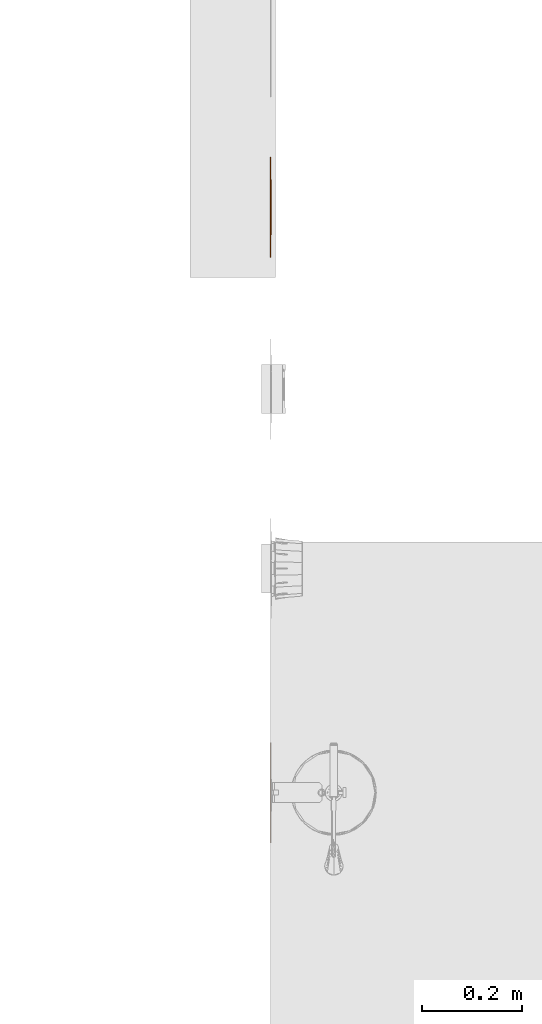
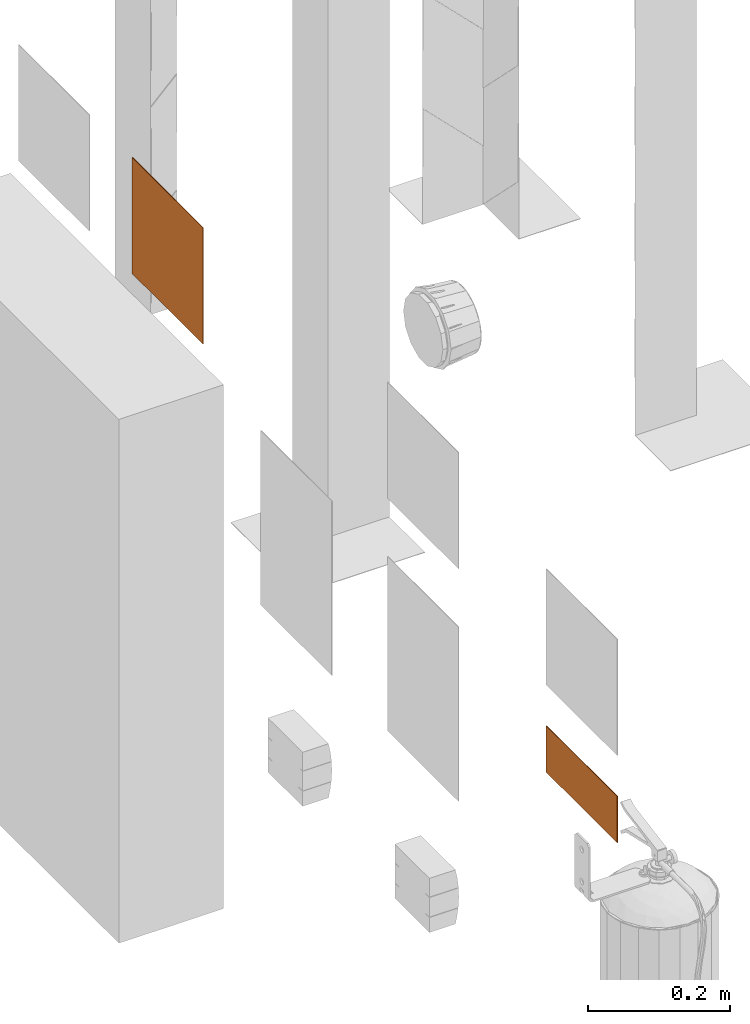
# One storey, part 98 of 119: 2 proxies.
"""IFC2X3 building model written with IfcOpenShell, lengths in metres."""

from ifc_helpers import new_model, entity, si_unit, converted_unit, derived_unit, direction, frame, frame_2d, origin, origin_2d_with_axis, place, context, subcontext, project, spatial, polyline, circle_curve, parameter, trimmed, segment, composite_curve, rectangle, outline, extrude, source, transform, mapped, material, material_list, type_object, type_shapes, element, save


model = new_model("IFC2X3")

# Units and contexts
model_context = context("Model", 3, precision=1e-05, world=origin(), true_north=direction((6.12303176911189e-17, 1.0)))
body_context = subcontext(model_context, "Body", "Model", "MODEL_VIEW")
ifc_project = project(units=[si_unit("LENGTHUNIT", "METRE"), si_unit("AREAUNIT", "SQUARE_METRE"), si_unit("VOLUMEUNIT", "CUBIC_METRE"), converted_unit("PLANEANGLEUNIT", "DEGREE", entity("IfcRatioMeasure", 0.0174532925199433), si_unit("PLANEANGLEUNIT", "RADIAN"), dimensions=[0, 0, 0, 0, 0, 0, 0]), si_unit("MASSUNIT", "GRAM", prefix="KILO"), derived_unit("MASSDENSITYUNIT", [(si_unit("MASSUNIT", "GRAM", prefix="KILO"), 1), (si_unit("LENGTHUNIT", "METRE"), -3)]), derived_unit("MOMENTOFINERTIAUNIT", [(si_unit("LENGTHUNIT", "METRE"), 4)]), si_unit("TIMEUNIT", "SECOND"), si_unit("FREQUENCYUNIT", "HERTZ"), si_unit("THERMODYNAMICTEMPERATUREUNIT", "DEGREE_CELSIUS"), derived_unit("THERMALTRANSMITTANCEUNIT", [(si_unit("MASSUNIT", "GRAM", prefix="KILO"), 1), (si_unit("THERMODYNAMICTEMPERATUREUNIT", "KELVIN"), -1), (si_unit("TIMEUNIT", "SECOND"), -3)]), derived_unit("VOLUMETRICFLOWRATEUNIT", [(si_unit("LENGTHUNIT", "METRE"), 3), (si_unit("TIMEUNIT", "SECOND"), -1)]), si_unit("ELECTRICCURRENTUNIT", "AMPERE"), si_unit("ELECTRICVOLTAGEUNIT", "VOLT"), si_unit("POWERUNIT", "WATT"), si_unit("FORCEUNIT", "NEWTON", prefix="KILO"), si_unit("ILLUMINANCEUNIT", "LUX"), si_unit("LUMINOUSFLUXUNIT", "LUMEN"), si_unit("LUMINOUSINTENSITYUNIT", "CANDELA"), derived_unit("USERDEFINED", [(si_unit("MASSUNIT", "GRAM", prefix="KILO"), -1), (si_unit("LENGTHUNIT", "METRE"), -2), (si_unit("TIMEUNIT", "SECOND"), 3), (si_unit("LUMINOUSFLUXUNIT", "LUMEN"), 1)]), derived_unit("LINEARVELOCITYUNIT", [(si_unit("LENGTHUNIT", "METRE"), 1), (si_unit("TIMEUNIT", "SECOND"), -1)]), si_unit("PRESSUREUNIT", "PASCAL"), derived_unit("USERDEFINED", [(si_unit("LENGTHUNIT", "METRE"), -2), (si_unit("MASSUNIT", "GRAM", prefix="KILO"), 1), (si_unit("TIMEUNIT", "SECOND"), -2)]), derived_unit("LINEARFORCEUNIT", [(si_unit("MASSUNIT", "GRAM", prefix="KILO"), 1), (si_unit("LENGTHUNIT", "METRE"), 1), (si_unit("TIMEUNIT", "SECOND"), -2), (si_unit("LENGTHUNIT", "METRE"), -1)]), derived_unit("PLANARFORCEUNIT", [(si_unit("MASSUNIT", "GRAM", prefix="KILO"), 1), (si_unit("LENGTHUNIT", "METRE"), 1), (si_unit("TIMEUNIT", "SECOND"), -2), (si_unit("LENGTHUNIT", "METRE"), -2)])], contexts=[model_context])

# Site, building, storey
site_placement = place(None, origin())
site = spatial("IfcSite", under=ifc_project, at=site_placement, Name="Default", CompositionType="ELEMENT")
building_placement = place(site_placement, origin())
building = spatial("IfcBuilding", under=site, at=building_placement, CompositionType="ELEMENT")
storey_placement = place(building_placement, origin())
storey = spatial("IfcBuildingStorey", under=building, at=storey_placement, Name="PAV. 01 - TÉRREO", CompositionType="ELEMENT", Elevation=0.0)

# Proxies
ifc_material_1 = material(Name="Plastico Preto")
ifc_material_2 = material(Name="Plastico azul claro")
ifc_material_3 = material(Name="Plastico vermelho")
ifc_material_4 = material(Name="Plastico branco")
ifc_material_5 = material(Name="Plastico Verde")
ifc_material_list_1 = material_list([ifc_material_1, ifc_material_2, ifc_material_3, ifc_material_4, ifc_material_5])
building_element_proxy_type_1 = type_object("IfcBuildingElementProxyType", Name="Sinalização de equipamentos - E05 - Extintor de incêndio - TIPO 2:Placa de extintor - E6-A", PredefinedType="NOTDEFINED", material=ifc_material_1)
shared_shape_1 = source(origin(), body_context, "Body", "SweptSolid", [
    extrude(rectangle(XDim=0.001, YDim=0.0243464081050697, at=origin_2d_with_axis()), frame((0.0791678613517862, -0.0005, 0.0143679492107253), z_axis=(0.0, 0.0, 1.0), x_axis=(0.0, 1.0, 0.0)), (0.0, 0.0, 1.0), 0.0243153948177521),
    extrude(rectangle(XDim=0.001, YDim=0.0243464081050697, at=origin_2d_with_axis()), frame((0.0514092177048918, -0.0005, 0.0143679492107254), z_axis=(0.0, 0.0, 1.0), x_axis=(0.0, 1.0, 0.0)), (0.0, 0.0, 1.0), 0.0243153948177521),
    extrude(rectangle(XDim=0.001, YDim=0.0243464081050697, at=origin_2d_with_axis()), frame((0.023605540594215, -0.0005, 0.0143679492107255), z_axis=(0.0, 0.0, 1.0), x_axis=(0.0, 1.0, 0.0)), (0.0, 0.0, 1.0), 0.0243153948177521),
    extrude(rectangle(XDim=0.001, YDim=0.0243464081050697, at=origin_2d_with_axis()), frame((-0.00415310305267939, -0.0005, 0.0143679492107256), z_axis=(0.0, 0.0, 1.0), x_axis=(0.0, 1.0, 0.0)), (0.0, 0.0, 1.0), 0.0243153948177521),
    extrude(outline(polyline([(-0.0399999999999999, -0.1), (0.0399999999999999, -0.1), (0.0399999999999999, 0.1), (-0.0399999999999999, 0.1), (-0.0399999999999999, -0.1)]), holes=[polyline([(-0.0319999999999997, 0.091), (-0.0150022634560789, 0.091), (-0.0150022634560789, -0.091), (-0.0319999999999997, -0.091), (-0.0319999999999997, 0.091)]), polyline([(-0.010791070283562, 0.091), (0.0319999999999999, 0.091), (0.0319999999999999, 0.0473282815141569), (-0.010791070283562, 0.0473282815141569), (-0.010791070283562, 0.091)]), polyline([(0.00131665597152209, 0.0441091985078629), (0.0256320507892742, 0.0441091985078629), (0.0256320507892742, 0.0197627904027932), (0.00131665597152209, 0.0197627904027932), (0.00131665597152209, 0.0441091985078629)]), polyline([(0.00131665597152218, 0.0163263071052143), (0.0256320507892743, 0.0163263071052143), (0.0256320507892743, -0.00802010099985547), (0.00131665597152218, -0.00802010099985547), (0.00131665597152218, 0.0163263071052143)]), polyline([(0.00131665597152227, -0.0114323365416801), (0.0256320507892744, -0.0114323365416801), (0.0256320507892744, -0.0357787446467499), (0.00131665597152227, -0.0357787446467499), (0.00131665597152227, -0.0114323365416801)]), polyline([(0.00131665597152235, -0.0635824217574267), (0.00131665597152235, -0.039236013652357), (0.0256320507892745, -0.039236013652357), (0.0256320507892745, -0.0635824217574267), (0.00131665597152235, -0.0635824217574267)]), polyline([(0.00131665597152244, -0.0669946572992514), (0.0256320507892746, -0.0669946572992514), (0.0256320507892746, -0.091), (0.00131665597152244, -0.091), (0.00131665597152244, -0.0669946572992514)])]), frame((0.0, -0.001, 0.0399999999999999), z_axis=(0.0, 1.0, 0.0), x_axis=(0.0, 0.0, -1.0)), (0.0, 0.0, 1.0), 0.001),
    extrude(outline(composite_curve([segment(trimmed(circle_curve(frame_2d((-0.00182713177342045, 0.0030692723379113), x_axis=(1.0, 0.0)), 0.00333179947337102), [parameter(180.0)], [parameter(270.0)], True, "PARAMETER"), True, "CONTINUOUS"), segment(polyline([(-0.00182713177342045, -0.000262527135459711), (-0.000430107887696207, -0.000262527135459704)]), True, "CONTINUOUS"), segment(polyline([(-0.000430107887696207, -0.000262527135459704), (-0.000430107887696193, -0.00350797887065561)]), True, "CONTINUOUS"), segment(polyline([(-0.000430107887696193, -0.00350797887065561), (-0.00249820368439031, -0.00350797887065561)]), True, "CONTINUOUS"), segment(polyline([(-0.00249820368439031, -0.00350797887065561), (-0.00742535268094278, 7.18044171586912e-05)]), True, "CONTINUOUS"), segment(polyline([(-0.00742535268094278, 7.18044171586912e-05), (-0.00742535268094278, 0.00166630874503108)]), True, "CONTINUOUS"), segment(polyline([(-0.00742535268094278, 0.00166630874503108), (-0.00871124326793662, 0.00166630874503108)]), True, "CONTINUOUS"), segment(polyline([(-0.00871124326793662, 0.00166630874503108), (-0.00846384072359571, -0.00134355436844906)]), True, "CONTINUOUS"), segment(trimmed(circle_curve(frame_2d((-0.00608099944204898, -0.00114769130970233), x_axis=(1.0, 0.0)), 0.00239087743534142), [parameter(184.698993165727)], [parameter(232.0)], True, "PARAMETER"), True, "CONTINUOUS"), segment(polyline([(-0.00755297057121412, -0.00303172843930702), (-0.0030496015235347, -0.00655014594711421)]), True, "CONTINUOUS"), segment(polyline([(-0.0030496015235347, -0.00655014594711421), (-0.000124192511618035, -0.00655014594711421)]), True, "CONTINUOUS"), segment(polyline([(-0.000124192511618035, -0.00655014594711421), (-0.000124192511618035, -0.00788602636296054)]), True, "CONTINUOUS"), segment(polyline([(-0.000124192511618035, -0.00788602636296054), (0.003207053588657, -0.00788602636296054)]), True, "CONTINUOUS"), segment(polyline([(0.003207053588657, -0.00788602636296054), (0.003207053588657, -0.00698801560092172)]), True, "CONTINUOUS"), segment(polyline([(0.003207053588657, -0.00698801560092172), (0.00540783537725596, -0.00698801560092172)]), True, "CONTINUOUS"), segment(polyline([(0.00540783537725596, -0.00698801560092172), (0.00665542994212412, -0.00574042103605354)]), True, "CONTINUOUS"), segment(polyline([(0.00665542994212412, -0.00574042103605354), (0.00665542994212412, -0.00450724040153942)]), True, "CONTINUOUS"), segment(polyline([(0.00665542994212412, -0.00450724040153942), (0.00491919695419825, -0.00324579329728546)]), True, "CONTINUOUS"), segment(polyline([(0.00491919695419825, -0.00324579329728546), (0.00355615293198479, -0.00324579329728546)]), True, "CONTINUOUS"), segment(polyline([(0.00355615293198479, -0.00324579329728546), (0.00355615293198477, -0.000262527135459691)]), True, "CONTINUOUS"), segment(polyline([(0.00355615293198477, -0.000262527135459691), (0.00500257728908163, -0.000262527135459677)]), True, "CONTINUOUS"), segment(trimmed(circle_curve(frame_2d((0.00500257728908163, 0.00284153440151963), x_axis=(1.0, 0.0)), 0.00310406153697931), [parameter(270.0)], [parameter(1.52666624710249e-13)], True, "PARAMETER"), True, "CONTINUOUS"), segment(polyline([(0.00810663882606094, 0.00284153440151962), (0.0081066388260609, 0.0313568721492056)]), True, "CONTINUOUS"), segment(polyline([(0.0081066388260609, 0.0313568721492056), (-0.00515893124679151, 0.0313568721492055)]), True, "CONTINUOUS"), segment(polyline([(-0.00515893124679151, 0.0313568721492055), (-0.00515893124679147, 0.00306927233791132)]), True, "CONTINUOUS")], self_intersect=False)), frame((-0.0705753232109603, -0.001, 0.0413479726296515), z_axis=(0.0, 1.0, 0.0), x_axis=(1.0, 0.0, 0.0)), (0.0, 0.0, 1.0), 0.001),
    extrude(rectangle(XDim=0.001, YDim=0.0243464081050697, at=origin_2d_with_axis()), frame((-0.0319359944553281, -0.0005, 0.0143679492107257), z_axis=(0.0, 0.0, 1.0), x_axis=(0.0, 1.0, 0.0)), (0.0, 0.0, 1.0), 0.0243153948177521),
    extrude(outline(polyline([(-0.0218358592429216, -0.021395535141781), (0.0218358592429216, -0.021395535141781), (0.0218358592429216, 0.021395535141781), (-0.0218358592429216, 0.021395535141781), (-0.0218358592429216, -0.021395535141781)]), holes=[composite_curve([segment(polyline([(-0.00669545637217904, -0.0194044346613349), (-0.00669545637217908, 0.00911090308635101)]), True, "CONTINUOUS"), segment(trimmed(circle_curve(frame_2d((-0.00359139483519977, 0.00911090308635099), x_axis=(-1.0, 0.0)), 0.00310406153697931), [parameter(270.0)], [parameter(360.0)], True, "PARAMETER"), False, "CONTINUOUS"), segment(polyline([(-0.0035913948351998, 0.0122149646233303), (-0.00214497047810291, 0.0122149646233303)]), True, "CONTINUOUS"), segment(polyline([(-0.00214497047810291, 0.0122149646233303), (-0.00214497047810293, 0.0151982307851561)]), True, "CONTINUOUS"), segment(polyline([(-0.00214497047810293, 0.0151982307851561), (-0.0035080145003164, 0.0151982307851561)]), True, "CONTINUOUS"), segment(polyline([(-0.0035080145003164, 0.0151982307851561), (-0.00524424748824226, 0.01645967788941)]), True, "CONTINUOUS"), segment(polyline([(-0.00524424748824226, 0.01645967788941), (-0.00524424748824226, 0.0176928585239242)]), True, "CONTINUOUS"), segment(polyline([(-0.00524424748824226, 0.0176928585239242), (-0.0039966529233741, 0.0189404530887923)]), True, "CONTINUOUS"), segment(polyline([(-0.0039966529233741, 0.0189404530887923), (-0.00179587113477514, 0.0189404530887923)]), True, "CONTINUOUS"), segment(polyline([(-0.00179587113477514, 0.0189404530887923), (-0.00179587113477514, 0.0198384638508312)]), True, "CONTINUOUS"), segment(polyline([(-0.00179587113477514, 0.0198384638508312), (0.00153537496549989, 0.0198384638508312)]), True, "CONTINUOUS"), segment(polyline([(0.00153537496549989, 0.0198384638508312), (0.00153537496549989, 0.0185025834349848)]), True, "CONTINUOUS"), segment(polyline([(0.00153537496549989, 0.0185025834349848), (0.00446078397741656, 0.0185025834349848)]), True, "CONTINUOUS"), segment(polyline([(0.00446078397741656, 0.0185025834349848), (0.00896415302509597, 0.0149841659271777)]), True, "CONTINUOUS"), segment(trimmed(circle_curve(frame_2d((0.00749218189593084, 0.0131001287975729), x_axis=(-1.0, 0.0)), 0.00239087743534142), [parameter(184.698993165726)], [parameter(231.999999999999)], True, "PARAMETER"), False, "CONTINUOUS"), segment(polyline([(0.00987502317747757, 0.0132959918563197), (0.0101224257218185, 0.0102861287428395)]), True, "CONTINUOUS"), segment(polyline([(0.0101224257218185, 0.0102861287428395), (0.00883653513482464, 0.0102861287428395)]), True, "CONTINUOUS"), segment(polyline([(0.00883653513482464, 0.0102861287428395), (0.00883653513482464, 0.0118806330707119)]), True, "CONTINUOUS"), segment(polyline([(0.00883653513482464, 0.0118806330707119), (0.00390938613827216, 0.0154604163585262)]), True, "CONTINUOUS"), segment(polyline([(0.00390938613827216, 0.0154604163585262), (0.00184129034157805, 0.0154604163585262)]), True, "CONTINUOUS"), segment(polyline([(0.00184129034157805, 0.0154604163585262), (0.00184129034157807, 0.0122149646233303)]), True, "CONTINUOUS"), segment(polyline([(0.00184129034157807, 0.0122149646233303), (0.00323831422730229, 0.0122149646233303)]), True, "CONTINUOUS"), segment(trimmed(circle_curve(frame_2d((0.00323831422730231, 0.00888316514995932), x_axis=(-1.0, 0.0)), 0.00333179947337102), [parameter(180.0)], [parameter(270.0)], True, "PARAMETER"), False, "CONTINUOUS"), segment(polyline([(0.00657011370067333, 0.00888316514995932), (0.00657011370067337, -0.0194044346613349)]), True, "CONTINUOUS"), segment(polyline([(0.00657011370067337, -0.0194044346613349), (-0.00669545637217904, -0.0194044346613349)]), True, "CONTINUOUS")], self_intersect=False)]), frame((-0.0691641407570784, -0.001, 0.0293955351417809), z_axis=(0.0, 1.0, 0.0), x_axis=(-1.0, 0.0, 0.0)), (0.0, 0.0, 1.0), 0.001),
    extrude(rectangle(XDim=0.001, YDim=0.182, at=origin_2d_with_axis()), frame((0.0, -0.0005, 0.0550022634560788), z_axis=(0.0, 0.0, 1.0), x_axis=(0.0, 1.0, 0.0)), (0.0, 0.0, 1.0), 0.0169977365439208),
])
type_shapes(building_element_proxy_type_1, [shared_shape_1])
proxy_1_placement = place(storey_placement, frame((79.6740605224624, 19.8353728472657, 1.65), z_axis=(0.0, 0.0, 1.0), x_axis=(0.0, 1.0, 0.0)))
element("IfcBuildingElementProxy", 1, at=proxy_1_placement, inside=storey, type_object=building_element_proxy_type_1, material=ifc_material_list_1, Name="Sinalização de equipamentos - E05 - Extintor de incêndio - TIPO 2:Placa de extintor - E6-A", ObjectType="Sinalização de equipamentos - E05 - Extintor de incêndio - TIPO 2:Placa de extintor - E6-A", context=body_context, shape_type="MappedRepresentation", body=[
    mapped(shared_shape_1, transform((0.0, 0.0, 0.0), scale=1.0)),
])
ifc_material_list_2 = material_list([ifc_material_4, ifc_material_3])
building_element_proxy_type_2 = type_object("IfcBuildingElementProxyType", Name="Sinalização de equipamentos - E08 - Hidrante de incêndio:Distância 08m", PredefinedType="NOTDEFINED", material=ifc_material_4)
shared_shape_2 = source(origin(), body_context, "Body", "SweptSolid", [
    extrude(outline(polyline([(-0.0621646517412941, -0.0264425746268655), (-0.0621646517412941, -0.0546283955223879), (0.0655131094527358, -0.0546283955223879), (0.0655131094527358, -0.0264425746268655), (0.00753848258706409, -0.0264425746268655), (0.00753848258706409, 0.0264425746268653), (0.0655131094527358, 0.0264425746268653), (0.0655131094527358, 0.0546283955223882), (-0.0621646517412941, 0.0546283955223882), (-0.0621646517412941, 0.0264425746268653), (-0.0142353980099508, 0.0264425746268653), (-0.0142353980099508, -0.0264425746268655), (-0.0621646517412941, -0.0264425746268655)])), frame((0.0, -0.0015, 1.90139370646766), z_axis=(0.0, -1.0, 0.0), x_axis=(0.0, 0.0, -1.0)), (0.0, 0.0, -1.0), 0.0015),
    extrude(rectangle(XDim=0.001, YDim=0.179, at=origin_2d_with_axis()), frame((0.0, -0.0005, 1.8105), z_axis=(0.0, 0.0, 1.0), x_axis=(0.0, 1.0, 0.0)), (0.0, 0.0, 1.0), 0.179),
    extrude(outline(polyline([(-0.100000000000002, -0.1), (0.100000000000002, -0.1), (0.100000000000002, 0.1), (-0.100000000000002, 0.1), (-0.100000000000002, -0.1)]), holes=[polyline([(-0.0895000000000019, -0.0895000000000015), (-0.0895000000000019, 0.0894999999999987), (0.0894999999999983, 0.0894999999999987), (0.0894999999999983, -0.0895000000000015), (-0.0895000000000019, -0.0895000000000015)])]), frame((0.0, -0.001, 1.9), z_axis=(0.0, 1.0, 0.0), x_axis=(0.0, 0.0, -1.0)), (0.0, 0.0, 1.0), 0.001),
])
type_shapes(building_element_proxy_type_2, [shared_shape_2])
proxy_2_placement = place(storey_placement, frame((79.6740605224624, 21.0021896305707, 0.0), z_axis=(0.0, 0.0, 1.0), x_axis=(0.0, 1.0, 0.0)))
element("IfcBuildingElementProxy", 2, at=proxy_2_placement, inside=storey, type_object=building_element_proxy_type_2, material=ifc_material_list_2, Name="Sinalização de equipamentos - E08 - Hidrante de incêndio:Distância 08m", ObjectType="Sinalização de equipamentos - E08 - Hidrante de incêndio:Distância 08m", context=body_context, shape_type="MappedRepresentation", body=[
    mapped(shared_shape_2, transform((0.0, 0.0, 0.0), scale=1.0)),
])

save(model, "model.ifc")
